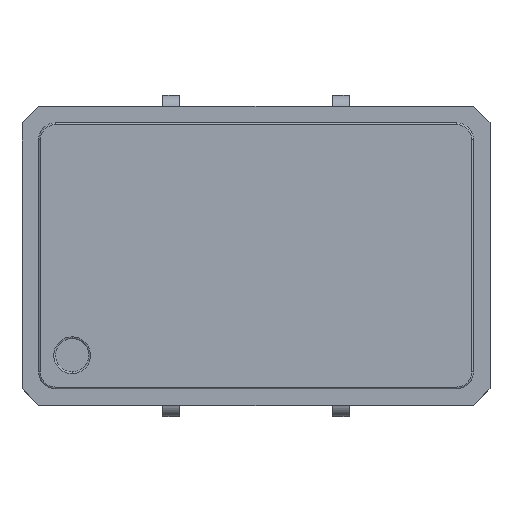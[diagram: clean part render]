
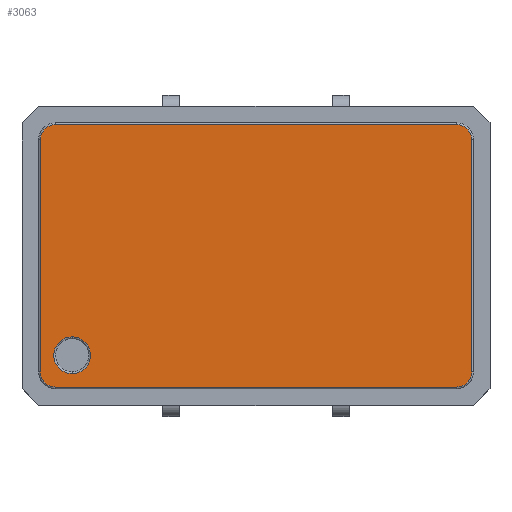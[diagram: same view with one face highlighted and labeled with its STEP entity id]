
A CAD part, top view. The second image highlights one B-rep face of the part: STEP entity #3063.
In plain terms, the highlighted planar face has unit normal (0, 0, 1).
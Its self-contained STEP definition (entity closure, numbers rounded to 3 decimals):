
#2508 = CARTESIAN_POINT ( 'NONE',  ( -5.5, -2.425, 4.7 ) ) ;
#2509 = VERTEX_POINT ( 'NONE', #2508 ) ;
#2510 = CARTESIAN_POINT ( 'NONE',  ( -5.5, -3.525, 4.7 ) ) ;
#2511 = VERTEX_POINT ( 'NONE', #2510 ) ;
#2512 = CARTESIAN_POINT ( 'NONE',  ( -5.5, -2.975, 4.7 ) ) ;
#2513 = DIRECTION ( 'NONE',  ( 0., 0., -1. ) ) ;
#2514 = DIRECTION ( 'NONE',  ( 0., -1., 0. ) ) ;
#2515 = AXIS2_PLACEMENT_3D ( 'NONE', #2512, #2513, #2514 ) ;
#2516 = CIRCLE ( 'NONE', #2515, 0.55) ;
#2517 = EDGE_CURVE ( 'NONE', #2509, #2511, #2516, .T. ) ;
#2978 = CARTESIAN_POINT ( 'NONE',  ( 6.45, -3.475, 4.7 ) ) ;
#2979 = VERTEX_POINT ( 'NONE', #2978 ) ;
#2980 = CARTESIAN_POINT ( 'NONE',  ( 6.45, 3.475, 4.7 ) ) ;
#2981 = VERTEX_POINT ( 'NONE', #2980 ) ;
#2982 = CARTESIAN_POINT ( 'NONE',  ( 6.45, 3.475, 4.7 ) ) ;
#2983 = DIRECTION ( 'NONE',  ( 0., 1., 0. ) ) ;
#2984 = VECTOR ( 'NONE', #2983, 1000. ) ;
#2985 = LINE ( 'NONE', #2982, #2984 ) ;
#2986 = EDGE_CURVE ( 'NONE', #2979, #2981, #2985, .T. ) ;
#2987 = ORIENTED_EDGE ( 'NONE', *, *, #2986, .T. ) ;
#2988 = CARTESIAN_POINT ( 'NONE',  ( 6., 3.925, 4.7 ) ) ;
#2989 = VERTEX_POINT ( 'NONE', #2988 ) ;
#2990 = CARTESIAN_POINT ( 'NONE',  ( 6., 3.475, 4.7 ) ) ;
#2991 = DIRECTION ( 'NONE',  ( 0., 0., 1. ) ) ;
#2992 = DIRECTION ( 'NONE',  ( 0., -1., 0. ) ) ;
#2993 = AXIS2_PLACEMENT_3D ( 'NONE', #2990, #2991, #2992 ) ;
#2994 = CIRCLE ( 'NONE', #2993, 0.45) ;
#2995 = EDGE_CURVE ( 'NONE', #2981, #2989, #2994, .T. ) ;
#2996 = ORIENTED_EDGE ( 'NONE', *, *, #2995, .T. ) ;
#2997 = CARTESIAN_POINT ( 'NONE',  ( -6., 3.925, 4.7 ) ) ;
#2998 = VERTEX_POINT ( 'NONE', #2997 ) ;
#2999 = CARTESIAN_POINT ( 'NONE',  ( -6., 3.925, 4.7 ) ) ;
#3000 = DIRECTION ( 'NONE',  ( -1., 0., 0. ) ) ;
#3001 = VECTOR ( 'NONE', #3000, 1000. ) ;
#3002 = LINE ( 'NONE', #2999, #3001 ) ;
#3003 = EDGE_CURVE ( 'NONE', #2989, #2998, #3002, .T. ) ;
#3004 = ORIENTED_EDGE ( 'NONE', *, *, #3003, .T. ) ;
#3005 = CARTESIAN_POINT ( 'NONE',  ( -6.45, 3.475, 4.7 ) ) ;
#3006 = VERTEX_POINT ( 'NONE', #3005 ) ;
#3007 = CARTESIAN_POINT ( 'NONE',  ( -6., 3.475, 4.7 ) ) ;
#3008 = DIRECTION ( 'NONE',  ( 0., 0., 1. ) ) ;
#3009 = DIRECTION ( 'NONE',  ( 0., -1., 0. ) ) ;
#3010 = AXIS2_PLACEMENT_3D ( 'NONE', #3007, #3008, #3009 ) ;
#3011 = CIRCLE ( 'NONE', #3010, 0.45) ;
#3012 = EDGE_CURVE ( 'NONE', #2998, #3006, #3011, .T. ) ;
#3013 = ORIENTED_EDGE ( 'NONE', *, *, #3012, .T. ) ;
#3014 = CARTESIAN_POINT ( 'NONE',  ( -6.45, -3.475, 4.7 ) ) ;
#3015 = VERTEX_POINT ( 'NONE', #3014 ) ;
#3016 = CARTESIAN_POINT ( 'NONE',  ( -6.45, -3.475, 4.7 ) ) ;
#3017 = DIRECTION ( 'NONE',  ( 0., -1., 0. ) ) ;
#3018 = VECTOR ( 'NONE', #3017, 1000. ) ;
#3019 = LINE ( 'NONE', #3016, #3018 ) ;
#3020 = EDGE_CURVE ( 'NONE', #3006, #3015, #3019, .T. ) ;
#3021 = ORIENTED_EDGE ( 'NONE', *, *, #3020, .T. ) ;
#3022 = CARTESIAN_POINT ( 'NONE',  ( -6., -3.925, 4.7 ) ) ;
#3023 = VERTEX_POINT ( 'NONE', #3022 ) ;
#3024 = CARTESIAN_POINT ( 'NONE',  ( -6., -3.475, 4.7 ) ) ;
#3025 = DIRECTION ( 'NONE',  ( 0., 0., 1. ) ) ;
#3026 = DIRECTION ( 'NONE',  ( 0., -1., 0. ) ) ;
#3027 = AXIS2_PLACEMENT_3D ( 'NONE', #3024, #3025, #3026 ) ;
#3028 = CIRCLE ( 'NONE', #3027, 0.45) ;
#3029 = EDGE_CURVE ( 'NONE', #3015, #3023, #3028, .T. ) ;
#3030 = ORIENTED_EDGE ( 'NONE', *, *, #3029, .T. ) ;
#3031 = CARTESIAN_POINT ( 'NONE',  ( 6., -3.925, 4.7 ) ) ;
#3032 = VERTEX_POINT ( 'NONE', #3031 ) ;
#3033 = CARTESIAN_POINT ( 'NONE',  ( 6., -3.925, 4.7 ) ) ;
#3034 = DIRECTION ( 'NONE',  ( 1., 0., 0. ) ) ;
#3035 = VECTOR ( 'NONE', #3034, 1000. ) ;
#3036 = LINE ( 'NONE', #3033, #3035 ) ;
#3037 = EDGE_CURVE ( 'NONE', #3023, #3032, #3036, .T. ) ;
#3038 = ORIENTED_EDGE ( 'NONE', *, *, #3037, .T. ) ;
#3039 = CARTESIAN_POINT ( 'NONE',  ( 6., -3.475, 4.7 ) ) ;
#3040 = DIRECTION ( 'NONE',  ( 0., 0., 1. ) ) ;
#3041 = DIRECTION ( 'NONE',  ( 0., -1., 0. ) ) ;
#3042 = AXIS2_PLACEMENT_3D ( 'NONE', #3039, #3040, #3041 ) ;
#3043 = CIRCLE ( 'NONE', #3042, 0.45) ;
#3044 = EDGE_CURVE ( 'NONE', #3032, #2979, #3043, .T. ) ;
#3045 = ORIENTED_EDGE ( 'NONE', *, *, #3044, .T. ) ;
#3046 = EDGE_LOOP ( 'NONE', ( #2987, #2996, #3004, #3013, #3021, #3030, #3038, #3045 ) ) ;
#3047 = FACE_OUTER_BOUND ( 'NONE', #3046, .T. ) ;
#3048 = CARTESIAN_POINT ( 'NONE',  ( -5.5, -2.975, 4.7 ) ) ;
#3049 = DIRECTION ( 'NONE',  ( 0., 0., -1. ) ) ;
#3050 = DIRECTION ( 'NONE',  ( 0., -1., 0. ) ) ;
#3051 = AXIS2_PLACEMENT_3D ( 'NONE', #3048, #3049, #3050 ) ;
#3052 = CIRCLE ( 'NONE', #3051, 0.55) ;
#3053 = EDGE_CURVE ( 'NONE', #2511, #2509, #3052, .T. ) ;
#3054 = ORIENTED_EDGE ( 'NONE', *, *, #3053, .T. ) ;
#3055 = ORIENTED_EDGE ( 'NONE', *, *, #2517, .T. ) ;
#3056 = EDGE_LOOP ( 'NONE', ( #3054, #3055 ) ) ;
#3057 = FACE_BOUND ( 'NONE', #3056, .T. ) ;
#3058 = CARTESIAN_POINT ( 'NONE',  ( 0., 0., 4.7 ) ) ;
#3059 = DIRECTION ( 'NONE',  ( 0., 0., 1. ) ) ;
#3060 = DIRECTION ( 'NONE',  ( 0., -1., 0. ) ) ;
#3061 = AXIS2_PLACEMENT_3D ( 'NONE', #3058, #3059, #3060 ) ;
#3062 = PLANE ( 'NONE', #3061 ) ;
#3063 = ADVANCED_FACE ( 'NONE', ( #3047, #3057 ), #3062, .T. ) ;
